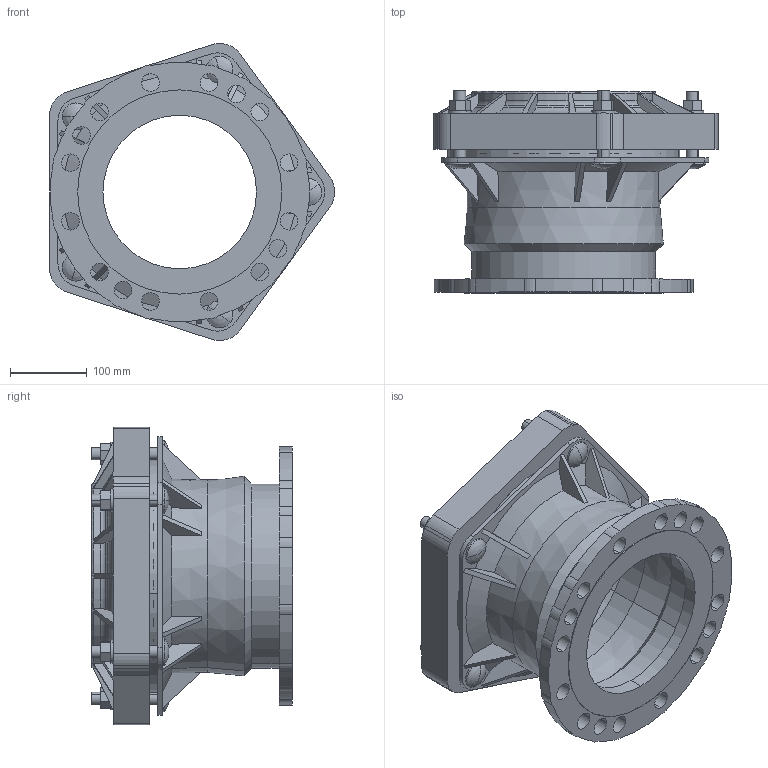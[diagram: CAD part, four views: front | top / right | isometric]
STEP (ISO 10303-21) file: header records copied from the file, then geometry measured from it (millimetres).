
FILE_DESCRIPTION((''),'2;1');
FILE_NAME('BIM_13199_9_ASM','2020-04-01T',('MReader'),(''),'CREO PARAMETRIC BY PTC INC, 2016130','CREO PARAMETRIC BY PTC INC, 2016130','');
FILE_SCHEMA(('CONFIG_CONTROL_DESIGN'));
Length unit declared in the file: millimetre
Products named in the file (5): NEW_BIM_13143; BIM_13141; BIM_CDX_BOLT_93; BIM_13129_7; BIM_13199_9_ASM
Assembly tree (8 placements, depth 2):
  BIM_13199_9_ASM
    NEW_BIM_13143
    BIM_13141
    BIM_CDX_BOLT_93  x5
    BIM_13129_7
Bounding box: 371.02 x 263 x 387.23 mm (x, y, z)
Volume: 5745475.2 mm3; surface area: 861627.5 mm2
Topology: 8 solids, 8 shells, 397 faces, 1037 edges, 665 vertices
Faces by surface type: plane 155, cylinder 138, cone 62, torus 32, sphere 10
Entity records: 11759 total; most frequent: DIRECTION 2124, CARTESIAN_POINT 2088, ORIENTED_EDGE 1942, EDGE_CURVE 971, AXIS2_PLACEMENT_3D 805, VERTEX_POINT 629, VECTOR 514, LINE 514
